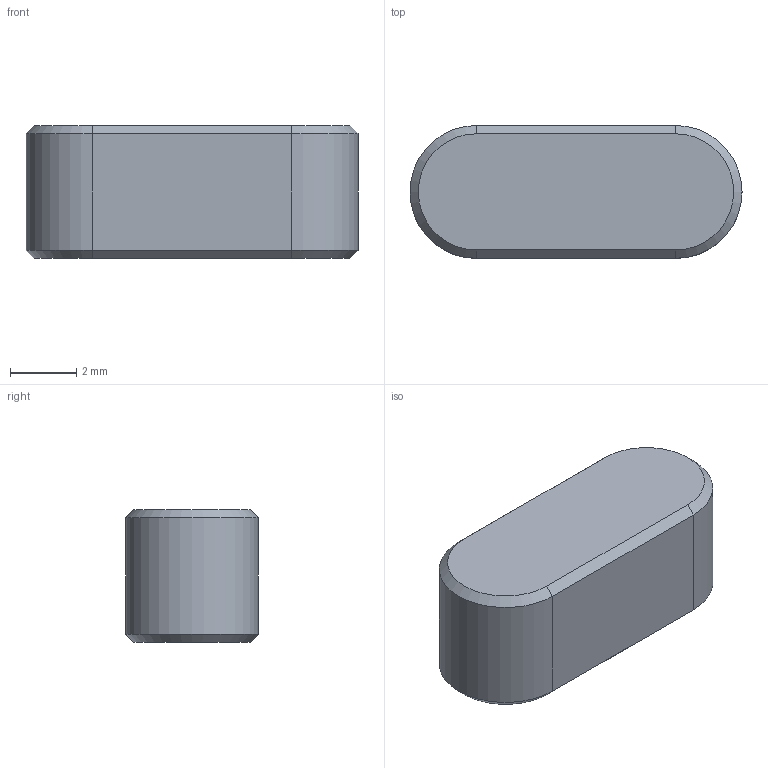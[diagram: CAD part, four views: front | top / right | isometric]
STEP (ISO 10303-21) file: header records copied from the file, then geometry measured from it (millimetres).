
FILE_DESCRIPTION(/* description */ ('키 및 해당 키홈'),/* implementation_level */ '2;1');
FILE_NAME(/* name */ '',/* time_stamp */ '2025-06-27T16:23:22+09:00',/* author */ ('jhkim'),/* organization */ (''),/* preprocessor_version */ 'ST-DEVELOPER v20.1',/* originating_system */ 'Autodesk Inventor 2026',/* authorisation */ '');
FILE_SCHEMA (('AUTOMOTIVE_DESIGN { 1 0 10303 214 3 1 1 }'));
Length unit declared in the file: millimetre
Products named in the file (1): 평행키 4x4x10
Bounding box: 10 x 4 x 4 mm (x, y, z)
Volume: 144.8 mm3; surface area: 164 mm2
Topology: 1 solids, 1 shells, 14 faces, 28 edges, 16 vertices
Faces by surface type: plane 8, cone 4, cylinder 2
Entity records: 399 total; most frequent: DIRECTION 66, CARTESIAN_POINT 59, ORIENTED_EDGE 56, EDGE_CURVE 28, AXIS2_PLACEMENT_3D 23, LINE 20, VECTOR 20, VERTEX_POINT 16
